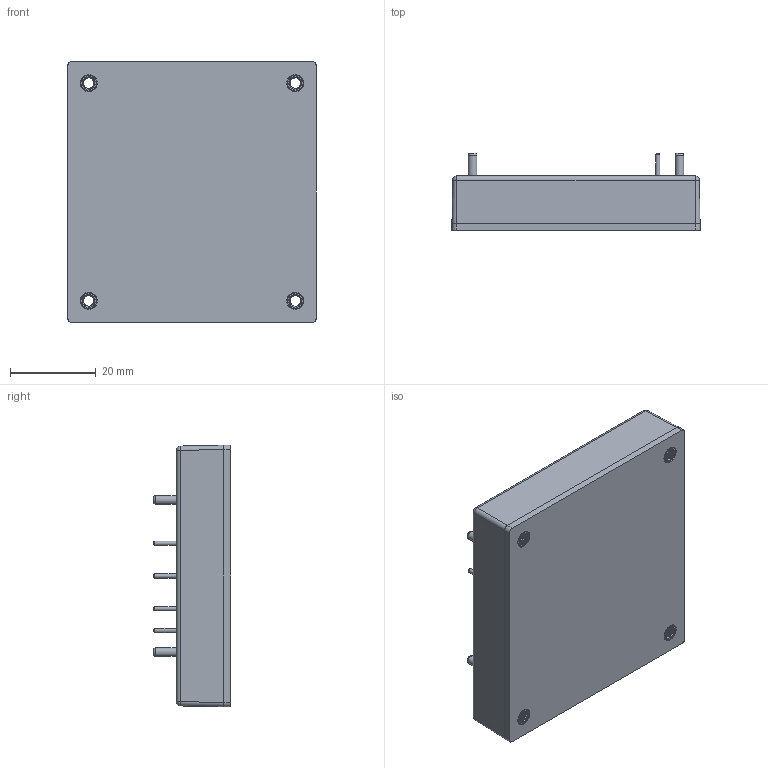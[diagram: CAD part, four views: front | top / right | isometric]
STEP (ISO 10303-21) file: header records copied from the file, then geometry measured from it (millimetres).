
FILE_DESCRIPTION (( 'STEP AP203' ), '1' );
FILE_NAME ('CHB500W成品圖2024.05.21.STEP', '2024-05-21T03:51:00', ( '' ), ( '' ), 'SwSTEP 2.0', 'SolidWorks 2020', '' );
FILE_SCHEMA (( 'CONFIG_CONTROL_DESIGN' ));
Length unit declared in the file: millimetre
Products named in the file (1): CHB500W成品圖2024.05.21
Bounding box: 57.9 x 18 x 61 mm (x, y, z)
Volume: 42788.8 mm3; surface area: 16751 mm2
Topology: 1 solids, 10 shells, 626 faces, 1681 edges, 1101 vertices
Faces by surface type: plane 364, cylinder 140, cone 103, bspline 11, torus 4, sphere 4
Full cylindrical faces by diameter (mm): 1 x6, 1.2 x6, 2 x4, 2.2 x4, 4 x5, 4.3 x4, 4.6 x4
Entity records: 28864 total; most frequent: CARTESIAN_POINT 13579, ORIENTED_EDGE 3190, DIRECTION 3071, EDGE_CURVE 1595, AXIS2_PLACEMENT_3D 1097, VERTEX_POINT 1087, LINE 877, VECTOR 877
